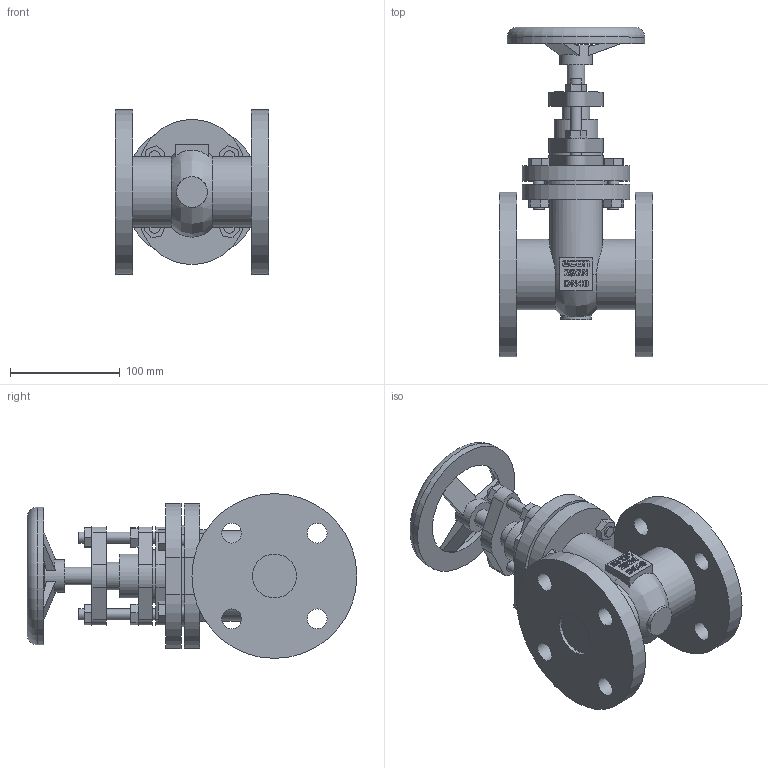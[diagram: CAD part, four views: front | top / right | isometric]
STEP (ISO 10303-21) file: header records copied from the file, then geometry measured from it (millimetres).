
FILE_DESCRIPTION(/* description */ (''),/* implementation_level */ '2;1');
FILE_NAME(/* name */ '292NOD-DN40-PN16 - 13360105.stp',/* time_stamp */ '2024-06-20T23:11:06+02:00',/* author */ ('roger.thijssen'),/* organization */ (''),/* preprocessor_version */ 'ST-DEVELOPER v20',/* originating_system */ 'Autodesk Inventor 2024',/* authorisation */ '');
FILE_SCHEMA (('AUTOMOTIVE_DESIGN { 1 0 10303 214 3 1 1 }'));
Length unit declared in the file: millimetre
Products named in the file (1): 292NOD-DN40-PN16 - 13360105
Bounding box: 140 x 300 x 150 mm (x, y, z)
Volume: 1655966.4 mm3; surface area: 209315.3 mm2
Topology: 1 solids, 1 shells, 387 faces, 999 edges, 666 vertices
Faces by surface type: plane 256, cylinder 69, bspline 60, torus 2
Full cylindrical faces by diameter (mm): 10 x14, 16 x1, 18 x8, 25 x1, 28 x1, 30 x1, 40 x3, 48 x1, 64 x2, 87 x1, 125 x1, 150 x2
Entity records: 12915 total; most frequent: CARTESIAN_POINT 3137, ORIENTED_EDGE 1998, DIRECTION 1698, EDGE_CURVE 999, LINE 708, VECTOR 708, VERTEX_POINT 666, AXIS2_PLACEMENT_3D 495
